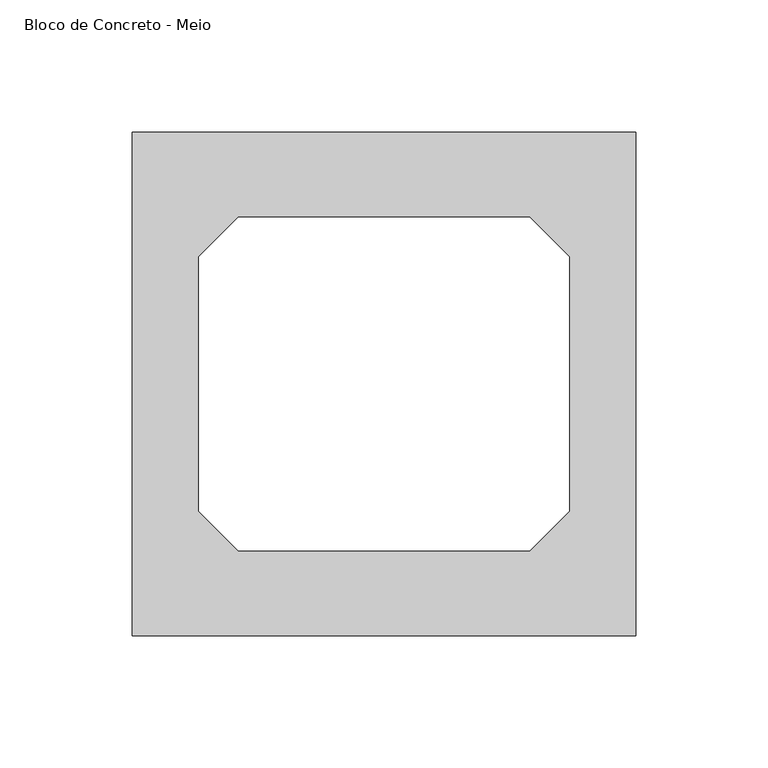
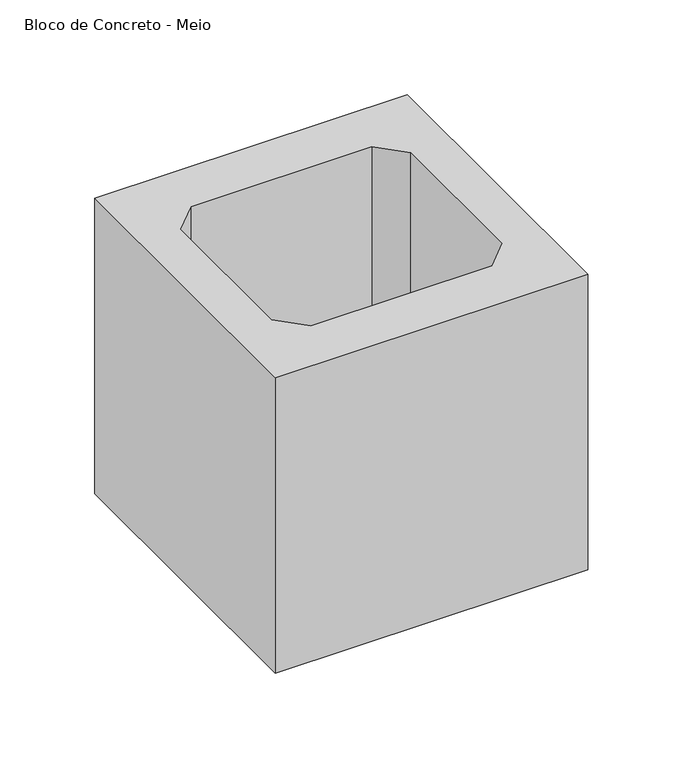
"""IFC4 building model written with IfcOpenShell, lengths in millimetres: proxy geometry, Bloco de Concreto - Meio : Família 20 x 40 - Classe A."""

import ifcopenshell
import ifcopenshell.guid

model = None  # the IFC model being written
_history = None  # IfcOwnerHistory: only IFC2X3 demands one
_inside = {}  # id of a spatial element -> (the spatial element, [elements in it])
_under = {}  # id of a project, library or spatial element -> (it, [spatial elements below it])
_declared = {}  # id of a project -> (the project, [libraries it declares])
_typed = {}  # id of a type object -> (the type object, [elements of that type])
_made_of = {}  # id of a material, layer set ... -> (it, [elements and type objects made of it])


def new_model(schema):
    """Start an empty IFC model of exactly this schema.

    Asked for "IFC4X3", IfcOpenShell would pick the latest addendum, in which some entities
    have other attributes; the version numbers below select the first issue.
    IFC2X3 requires an IfcOwnerHistory on every rooted entity: one is made here for all.
    """
    global model, _history
    if schema == "IFC4X3":
        model = ifcopenshell.file(schema_version=(4, 3, 0, 0))
    else:
        model = ifcopenshell.file(schema=schema)
    _inside.clear()
    _under.clear()
    _declared.clear()
    _typed.clear()
    _made_of.clear()
    _history = None
    if model.schema == "IFC2X3":
        org = make("IfcOrganization", Name="unknown")
        user = make(
            "IfcPersonAndOrganization",
            ThePerson=make("IfcPerson", FamilyName="unknown"),
            TheOrganization=org,
        )
        app = make(
            "IfcApplication",
            ApplicationDeveloper=org,
            Version="unknown",
            ApplicationFullName="unknown",
            ApplicationIdentifier="unknown",
        )
        _history = make(
            "IfcOwnerHistory",
            OwningUser=user,
            OwningApplication=app,
            ChangeAction="ADDED",
            CreationDate=0,
        )
    return model


def make(cls, **values):
    """One entity of the class cls with the attributes given. An attribute that is None is left unset."""
    return model.create_entity(
        cls, **{name: value for name, value in values.items() if value is not None}
    )


def rooted(cls, **values):
    """An entity with a GlobalId (a new one), such as an element, a storey or a relation."""
    return make(cls, GlobalId=ifcopenshell.guid.new(), OwnerHistory=_history, **values)


def si_unit(unit_type, name, prefix=None):
    """IfcSIUnit, for example si_unit("LENGTHUNIT", "METRE", prefix="MILLI")."""
    return make("IfcSIUnit", UnitType=unit_type, Prefix=prefix, Name=name)


def assignment(units):
    """IfcUnitAssignment: the units of a project."""
    return None if units is None else make("IfcUnitAssignment", Units=units)


def point(xyz):
    """IfcCartesianPoint."""
    return None if xyz is None else make("IfcCartesianPoint", Coordinates=xyz)


def direction(xyz):
    """IfcDirection."""
    return None if xyz is None else make("IfcDirection", DirectionRatios=xyz)


def frame(location, z_axis=None, x_axis=None):
    """IfcAxis2Placement3D, a coordinate frame: its origin and axes. An axis left out is left unset."""
    return make(
        "IfcAxis2Placement3D",
        Location=point(location),
        Axis=direction(z_axis),
        RefDirection=direction(x_axis),
    )


def origin():
    """The frame at (0, 0, 0) with its axes left unset."""
    return frame((0.0, 0.0, 0.0))


def origin_with_axes():
    """The frame at (0, 0, 0) with the z axis (0, 0, 1) and the x axis (1, 0, 0) written out."""
    return frame((0.0, 0.0, 0.0), z_axis=(0.0, 0.0, 1.0), x_axis=(1.0, 0.0, 0.0))


def place(relative_to, where):
    """IfcLocalPlacement: puts the frame where relative to a parent placement (None: the world)."""
    return make(
        "IfcLocalPlacement", PlacementRelTo=relative_to, RelativePlacement=where
    )


def context(
    kind, dimensions, precision=None, world=None, true_north=None, identifier=None
):
    """IfcGeometricRepresentationContext, for example the 3D "Model" context."""
    return make(
        "IfcGeometricRepresentationContext",
        ContextIdentifier=identifier,
        ContextType=kind,
        CoordinateSpaceDimension=dimensions,
        Precision=precision,
        WorldCoordinateSystem=world,
        TrueNorth=true_north,
    )


def project(units=None, contexts=None):
    """IfcProject with its units and contexts."""
    return rooted(
        "IfcProject",
        Name="project",
        RepresentationContexts=contexts,
        UnitsInContext=assignment(units),
    )


def spatial(cls, under=None, at=None, **own):
    """A site, building, storey or space (cls), placed at a placement, below another one or the project."""
    s = rooted(cls, ObjectPlacement=at, **own)
    if under is not None:
        _under.setdefault(under.id(), (under, []))[1].append(s)
    return s


def polyline(points):
    """IfcPolyline through the points."""
    return make("IfcPolyline", Points=[point(p) for p in points])


def outline(outer, holes=None, kind="AREA"):
    """IfcArbitraryClosedProfileDef: a profile drawn as a closed curve; with holes, ...WithVoids."""
    if holes is None:
        return make("IfcArbitraryClosedProfileDef", ProfileType=kind, OuterCurve=outer)
    return make(
        "IfcArbitraryProfileDefWithVoids",
        ProfileType=kind,
        OuterCurve=outer,
        InnerCurves=holes,
    )


def extrude(swept, where, along, depth):
    """IfcExtrudedAreaSolid: the profile swept, set in the frame where, extruded along a direction by depth."""
    return make(
        "IfcExtrudedAreaSolid",
        SweptArea=swept,
        Position=where,
        ExtrudedDirection=direction(along),
        Depth=depth,
    )


def shape(context_of_items, identifier, shape_type, items):
    """IfcShapeRepresentation: the items that make up one representation, for example the "Body"."""
    return make(
        "IfcShapeRepresentation",
        ContextOfItems=context_of_items,
        RepresentationIdentifier=identifier,
        RepresentationType=shape_type,
        Items=items,
    )


def source(mapping_origin, context_of_items, identifier, shape_type, items):
    """IfcRepresentationMap: a shape defined once, which mapped items show again and again."""
    return make(
        "IfcRepresentationMap",
        MappingOrigin=mapping_origin,
        MappedRepresentation=shape(context_of_items, identifier, shape_type, items),
    )


def transform(
    local_origin,
    x_axis=None,
    y_axis=None,
    z_axis=None,
    scale=None,
    scale2=None,
    scale3=None,
    uniform=True,
):
    """IfcCartesianTransformationOperator3D, or its non-uniform kind. x_axis, y_axis, z_axis: its Axis1, 2, 3."""
    if uniform:
        return make(
            "IfcCartesianTransformationOperator3D",
            Axis1=direction(x_axis),
            Axis2=direction(y_axis),
            LocalOrigin=point(local_origin),
            Scale=scale,
            Axis3=direction(z_axis),
        )
    return make(
        "IfcCartesianTransformationOperator3DnonUniform",
        Axis1=direction(x_axis),
        Axis2=direction(y_axis),
        LocalOrigin=point(local_origin),
        Scale=scale,
        Axis3=direction(z_axis),
        Scale2=scale2,
        Scale3=scale3,
    )


def mapped(mapping_source, mapping_target):
    """IfcMappedItem: shows the shape of a source again, moved by a transform."""
    return make(
        "IfcMappedItem", MappingSource=mapping_source, MappingTarget=mapping_target
    )


def made_of(thing, what):
    """Note that an element or type object is made of a material, layer set ...; save() writes the relation."""
    if what is not None:
        _made_of.setdefault(what.id(), (what, []))[1].append(thing)
    return thing


def element(
    cls,
    number,
    at=None,
    inside=None,
    cuts=None,
    type_object=None,
    material=None,
    context=None,
    identifier="Body",
    shape_type=None,
    held_by="IfcProductDefinitionShape",
    body=None,
    shapes=None,
    **own,
):
    """One element of the class cls, such as IfcWall. Its Tag is "e" and its number.

    at: its placement. inside: the storey or other place that contains it. cuts: it is an
    opening in that element (IfcRelVoidsElement). A single representation is given by context,
    identifier, shape_type and body (its items); several are given by shapes. held_by: the class
    of the entity that holds the representations. save() writes the other relations.
    """
    e = rooted(cls, Tag="e%d" % number, ObjectPlacement=at, **own)
    if body is not None:
        shapes = [shape(context, identifier, shape_type, body)]
    if shapes is not None:
        e.Representation = make(held_by, Representations=shapes)
    if inside is not None:
        _inside.setdefault(inside.id(), (inside, []))[1].append(e)
    if cuts is not None:
        rooted(
            "IfcRelVoidsElement", RelatingBuildingElement=cuts, RelatedOpeningElement=e
        )
    if type_object is not None:
        _typed.setdefault(type_object.id(), (type_object, []))[1].append(e)
    return made_of(e, material)


def aggregate(whole, parts):
    """IfcRelAggregates: a whole, such as a stair, and the parts it consists of."""
    return rooted("IfcRelAggregates", RelatingObject=whole, RelatedObjects=parts)


def save(model, path):
    """Write the relations noted so far, then the file.

    IfcRelAggregates (storeys below a building ...), IfcRelContainedInSpatialStructure (elements
    in a storey), IfcRelDefinesByType, IfcRelAssociatesMaterial and IfcRelDeclares: one each for
    every whole, place, type object, material and project.
    """
    for whole, parts in _under.values():
        aggregate(whole, parts)
    for where, things in _inside.values():
        rooted(
            "IfcRelContainedInSpatialStructure",
            RelatedElements=things,
            RelatingStructure=where,
        )
    for kind, things in _typed.values():
        rooted("IfcRelDefinesByType", RelatedObjects=things, RelatingType=kind)
    for what, things in _made_of.values():
        rooted("IfcRelAssociatesMaterial", RelatedObjects=things, RelatingMaterial=what)
    for by, libraries in _declared.values():
        rooted("IfcRelDeclares", RelatingContext=by, RelatedDefinitions=libraries)
    model.write(path)


def bloco_de_concreto_meio_ecf0463e(model_context):
    return source(origin(), model_context, "Body", "SweptSolid", [
        extrude(outline(polyline([(95.0, 95.0), (95.0, -95.0), (-95.0, -95.0), (-95.0, 95.0), (95.0, 95.0)]), holes=[polyline([(55.0, 63.0), (-55.0, 63.0), (-70.0, 48.0), (-70.0, -48.0), (-55.0, -63.0), (55.0, -63.0), (70.0, -48.0), (70.0, 48.0), (55.0, 63.0)])]), origin_with_axes(), (0.0, 0.0, 1.0), 190.0),
    ])


if __name__ == "__main__":
    model = new_model("IFC4")
    model_context = context("Model", 3, world=origin())
    ifc_project = project(units=[si_unit("LENGTHUNIT", "METRE", prefix="MILLI")], contexts=[model_context])
    site = spatial("IfcSite", under=ifc_project)
    building = spatial("IfcBuilding", under=site)
    placement = place(None, origin())
    bloco_de_concreto_meio_shape = bloco_de_concreto_meio_ecf0463e(model_context)
    element("IfcBuildingElementProxy", 1, Name="Bloco de Concreto - Meio : Família 20 x 40 - Classe A", ObjectType="Bloco de Concreto - Meio : Família 20 x 40 - Classe A", at=placement, inside=building, context=model_context, shape_type="MappedRepresentation", body=[
        mapped(bloco_de_concreto_meio_shape, transform((0.0, 0.0, 0.0), x_axis=(1.0, 0.0, 0.0), y_axis=(0.0, 1.0, 0.0), z_axis=(0.0, 0.0, 1.0))),
    ])
    save(model, "model.ifc")
